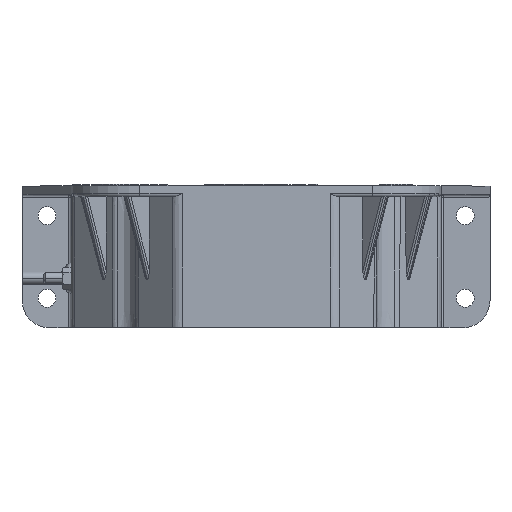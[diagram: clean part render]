
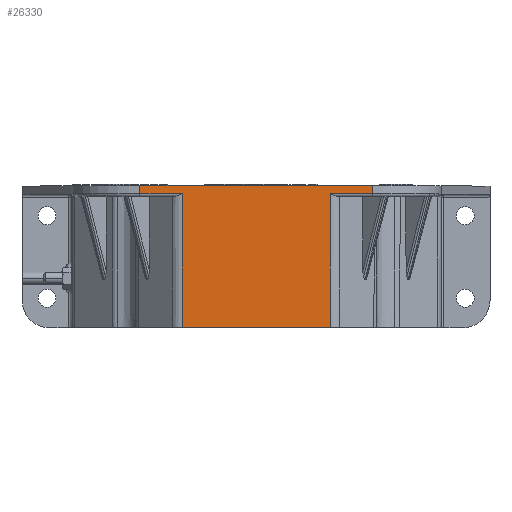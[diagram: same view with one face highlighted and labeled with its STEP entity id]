
A CAD part, top view. The second image highlights one B-rep face of the part: STEP entity #26330.
In plain terms, the highlighted planar face has unit normal (0, -0.004, 1) as drawn and (0, 1, 0.003) by its records, which use the part's own axes.
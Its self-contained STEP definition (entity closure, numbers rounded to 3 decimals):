
#25620=CARTESIAN_POINT('',(26.889,66.38,
-51.5));
#25630=DIRECTION('',(0.,1.,0.003));
#25640=DIRECTION('',(-1.,0.,0.));
#25650=AXIS2_PLACEMENT_3D('',#25620,#25630,#25640);
#25660=PLANE('',#25650);
#25670=CARTESIAN_POINT('',(-26.889,66.2,0.));
#25680=DIRECTION('',(0.,0.003,-1.));
#25690=VECTOR('',#25680,1.);
#25700=LINE('',#25670,#25690);
#25710=CARTESIAN_POINT('',(-26.889,66.2,0.));
#25720=VERTEX_POINT('',#25710);
#25730=CARTESIAN_POINT('',(-26.889,66.37,
-48.497));
#25740=VERTEX_POINT('',#25730);
#25750=EDGE_CURVE('',#25720,#25740,#25700,.T.);
#25760=ORIENTED_EDGE('',*,*,#25750,.F.);
#25770=CARTESIAN_POINT('',(0.,66.37,-48.497));
#25780=DIRECTION('',(1.,0.,0.));
#25790=VECTOR('',#25780,1.);
#25800=LINE('',#25770,#25790);
#25810=CARTESIAN_POINT('',(-42.2,66.37,
-48.497));
#25820=VERTEX_POINT('',#25810);
#25830=EDGE_CURVE('',#25820,#25740,#25800,.T.);
#25840=ORIENTED_EDGE('',*,*,#25830,.T.);
#25850=CARTESIAN_POINT('',(-42.2,66.38,
-51.5));
#25860=DIRECTION('',(0.,-0.003,1.));
#25870=VECTOR('',#25860,1.);
#25880=LINE('',#25850,#25870);
#25890=CARTESIAN_POINT('',(-42.2,66.38,
-51.5));
#25900=VERTEX_POINT('',#25890);
#25910=EDGE_CURVE('',#25900,#25820,#25880,.T.);
#25920=ORIENTED_EDGE('',*,*,#25910,.T.);
#25930=CARTESIAN_POINT('',(0.,66.38,-51.5));
#25940=DIRECTION('',(-1.,0.,0.));
#25950=VECTOR('',#25940,1.);
#25960=LINE('',#25930,#25950);
#25970=CARTESIAN_POINT('',(42.2,66.38,-51.5));
#25980=VERTEX_POINT('',#25970);
#25990=EDGE_CURVE('',#25980,#25900,#25960,.T.);
#26000=ORIENTED_EDGE('',*,*,#25990,.T.);
#26010=CARTESIAN_POINT('',(42.2,66.38,
-51.5));
#26020=DIRECTION('',(0.,-0.003,1.));
#26030=VECTOR('',#26020,1.);
#26040=LINE('',#26010,#26030);
#26050=CARTESIAN_POINT('',(42.2,66.37,
-48.497));
#26060=VERTEX_POINT('',#26050);
#26070=EDGE_CURVE('',#25980,#26060,#26040,.T.);
#26080=ORIENTED_EDGE('',*,*,#26070,.F.);
#26090=CARTESIAN_POINT('',(0.,66.37,-48.497));
#26100=DIRECTION('',(-1.,0.,0.));
#26110=VECTOR('',#26100,1.);
#26120=LINE('',#26090,#26110);
#26130=CARTESIAN_POINT('',(26.889,66.37,
-48.497));
#26140=VERTEX_POINT('',#26130);
#26150=EDGE_CURVE('',#26060,#26140,#26120,.T.);
#26160=ORIENTED_EDGE('',*,*,#26150,.F.);
#26170=CARTESIAN_POINT('',(26.889,66.2,0.));
#26180=DIRECTION('',(0.,0.003,-1.));
#26190=VECTOR('',#26180,1.);
#26200=LINE('',#26170,#26190);
#26210=CARTESIAN_POINT('',(26.889,66.2,0.));
#26220=VERTEX_POINT('',#26210);
#26230=EDGE_CURVE('',#26220,#26140,#26200,.T.);
#26240=ORIENTED_EDGE('',*,*,#26230,.T.);
#26250=CARTESIAN_POINT('',(0.,66.2,0.));
#26260=DIRECTION('',(-1.,0.,0.));
#26270=VECTOR('',#26260,1.);
#26280=LINE('',#26250,#26270);
#26290=EDGE_CURVE('',#26220,#25720,#26280,.T.);
#26300=ORIENTED_EDGE('',*,*,#26290,.F.);
#26310=EDGE_LOOP('',(#26300,#26240,#26160,#26080,#26000,#25920,#25840,
#25760));
#26320=FACE_OUTER_BOUND('',#26310,.T.);
#26330=ADVANCED_FACE('',(#26320),#25660,.T.);
